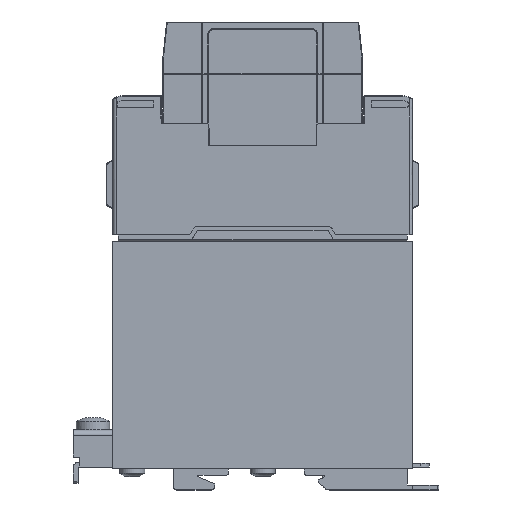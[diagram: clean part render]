
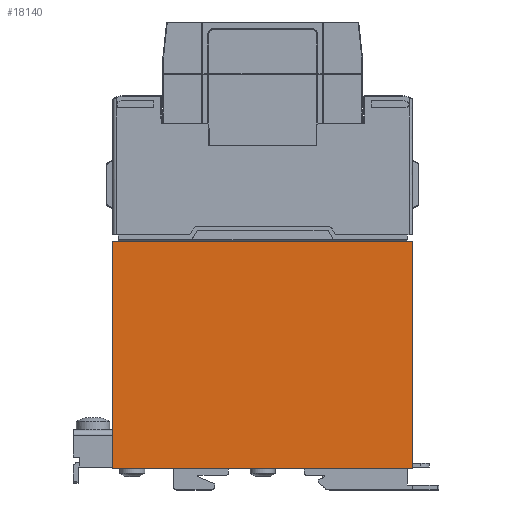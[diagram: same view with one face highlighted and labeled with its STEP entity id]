
A CAD part, left-side view. The second image highlights one B-rep face of the part: STEP entity #18140.
In plain terms, the highlighted planar face has unit normal (-1, 0, 0).
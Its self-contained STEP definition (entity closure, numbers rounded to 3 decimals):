
#4335=CARTESIAN_POINT('',(-35.65,45.,70.2));
#4336=VERTEX_POINT('',#4335);
#4343=CARTESIAN_POINT('',(-35.65,-45.,70.2));
#4344=VERTEX_POINT('',#4343);
#4345=CARTESIAN_POINT('',(-35.65,-45.,70.2));
#4346=DIRECTION('',(0.0,1.0,0.0));
#4347=VECTOR('',#4346,90.);
#4348=LINE('',#4345,#4347);
#4349=EDGE_CURVE('',#4344,#4336,#4348,.T.);
#14269=CARTESIAN_POINT('',(-35.65,-45.,2.1));
#14270=VERTEX_POINT('',#14269);
#14271=CARTESIAN_POINT('',(-35.65,-45.,70.2));
#14272=DIRECTION('',(0.0,0.0,-1.0));
#14273=VECTOR('',#14272,68.1);
#14274=LINE('',#14271,#14273);
#14275=EDGE_CURVE('',#4344,#14270,#14274,.T.);
#18117=CARTESIAN_POINT('',(-35.65,-45.,70.2));
#18118=DIRECTION('',(-1.0,0.0,0.0));
#18119=DIRECTION('',(0.0,0.0,1.0));
#18120=AXIS2_PLACEMENT_3D('',#18117,#18118,#18119);
#18121=PLANE('',#18120);
#18122=ORIENTED_EDGE('',*,*,#14275,.F.);
#18123=ORIENTED_EDGE('',*,*,#4349,.T.);
#18124=CARTESIAN_POINT('',(-35.65,45.,2.1));
#18125=VERTEX_POINT('',#18124);
#18126=CARTESIAN_POINT('',(-35.65,45.,70.2));
#18127=DIRECTION('',(0.0,0.0,-1.0));
#18128=VECTOR('',#18127,68.1);
#18129=LINE('',#18126,#18128);
#18130=EDGE_CURVE('',#4336,#18125,#18129,.T.);
#18131=ORIENTED_EDGE('',*,*,#18130,.T.);
#18132=CARTESIAN_POINT('',(-35.65,-45.,2.1));
#18133=DIRECTION('',(0.0,1.0,0.0));
#18134=VECTOR('',#18133,90.);
#18135=LINE('',#18132,#18134);
#18136=EDGE_CURVE('',#18125,#14270,#18135,.F.);
#18137=ORIENTED_EDGE('',*,*,#18136,.T.);
#18138=EDGE_LOOP('',(#18122,#18123,#18131,#18137));
#18139=FACE_OUTER_BOUND('',#18138,.T.);
#18140=ADVANCED_FACE('',(#18139),#18121,.T.);
